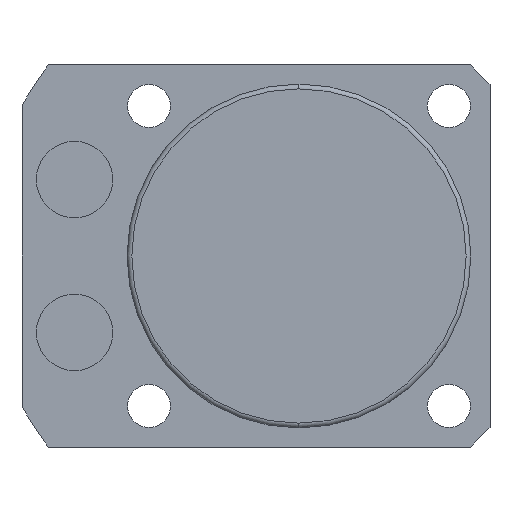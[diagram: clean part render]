
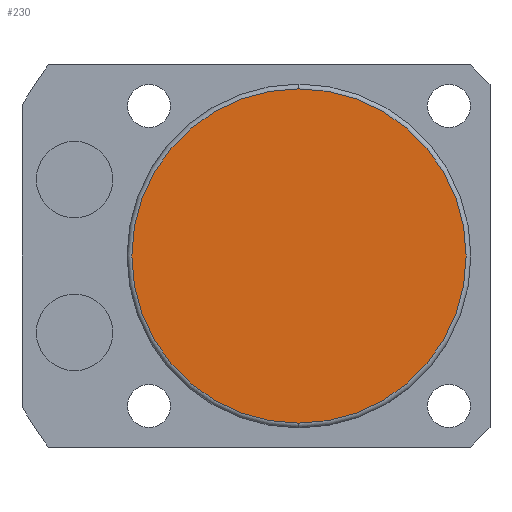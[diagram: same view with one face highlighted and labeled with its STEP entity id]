
A CAD part, front view. The second image highlights one B-rep face of the part: STEP entity #230.
In plain terms, the highlighted planar face has unit normal (0, -1, 0).
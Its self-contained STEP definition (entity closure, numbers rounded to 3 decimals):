
#174 = DIRECTION ( 'NONE',  ( 0., 0., -1. ) ) ;
#230 = ADVANCED_FACE ( 'NONE', ( #4341 ), #4538, .T. ) ;
#328 = DIRECTION ( 'NONE',  ( 0., -1., 0. ) ) ;
#356 = ORIENTED_EDGE ( 'NONE', *, *, #2182, .T. ) ;
#713 = VERTEX_POINT ( 'NONE', #2083 ) ;
#803 = DIRECTION ( 'NONE',  ( 0., 0., -1. ) ) ;
#839 = CIRCLE ( 'NONE', #3649, 17.5 ) ;
#1195 = AXIS2_PLACEMENT_3D ( 'NONE', #2873, #2546, #174 ) ;
#1228 = EDGE_LOOP ( 'NONE', ( #356, #2504 ) ) ;
#1653 = DIRECTION ( 'NONE',  ( 0., -1., 0. ) ) ;
#2083 = CARTESIAN_POINT ( 'NONE',  ( 0., -50.5, -17.5 ) ) ;
#2182 = EDGE_CURVE ( 'NONE', #713, #4664, #3299, .T. ) ;
#2241 = CARTESIAN_POINT ( 'NONE',  ( 0., -50.5, 17.5 ) ) ;
#2504 = ORIENTED_EDGE ( 'NONE', *, *, #4218, .T. ) ;
#2546 = DIRECTION ( 'NONE',  ( 0., -1., 0. ) ) ;
#2873 = CARTESIAN_POINT ( 'NONE',  ( 0., -50.5, 0. ) ) ;
#2895 = AXIS2_PLACEMENT_3D ( 'NONE', #3091, #328, #803 ) ;
#3091 = CARTESIAN_POINT ( 'NONE',  ( 0., -50.5, 0. ) ) ;
#3207 = DIRECTION ( 'NONE',  ( 0., 0., -1. ) ) ;
#3299 = CIRCLE ( 'NONE', #2895, 17.5 ) ;
#3649 = AXIS2_PLACEMENT_3D ( 'NONE', #4861, #1653, #3207 ) ;
#4218 = EDGE_CURVE ( 'NONE', #4664, #713, #839, .T. ) ;
#4341 = FACE_OUTER_BOUND ( 'NONE', #1228, .T. ) ;
#4538 = PLANE ( 'NONE',  #1195 ) ;
#4664 = VERTEX_POINT ( 'NONE', #2241 ) ;
#4861 = CARTESIAN_POINT ( 'NONE',  ( 0., -50.5, 0. ) ) ;
